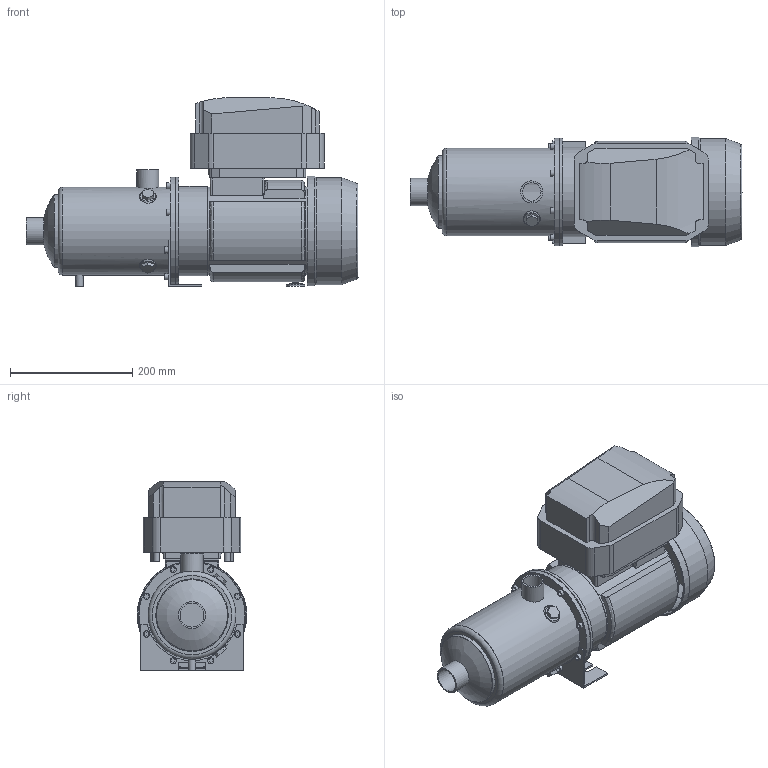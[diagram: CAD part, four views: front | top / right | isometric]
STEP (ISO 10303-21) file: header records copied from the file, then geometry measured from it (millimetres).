
FILE_DESCRIPTION(/* description */ ('Unknown'),/* implementation_level */ '2;1');
FILE_NAME(/* name */ 'MH 3 [7] T6 IE3 DTm',/* time_stamp */ '2026-07-10T15:06:16+02:00',/* author */ ('Unknown'),/* organization */ ('Unknown'),/* preprocessor_version */ 'ST-DEVELOPER v20',/* originating_system */ 'Solid Edge',/* authorisation */ 'Unknown');
FILE_SCHEMA (('AUTOMOTIVE_DESIGN {1 0 10303 214 3 1 1}'));
Length unit declared in the file: millimetre
Products named in the file (9): MH 3 [7] T6 IE3 DTm; Flangia motore Tonda M90; Corpo MH 3-5 [7]; Motore MEC 90 - T - VFD; carcassa MEC 90; Copriventola MEC 90; VFD sempl; Piedino MEC 90 int.90; Staffa 3-5-9 int.90
Assembly tree (8 placements, depth 3):
  MH 3 [7] T6 IE3 DTm
    Flangia motore Tonda M90
    Corpo MH 3-5 [7]
    Motore MEC 90 - T - VFD
      carcassa MEC 90
      Copriventola MEC 90
      VFD sempl
    Piedino MEC 90 int.90
    Staffa 3-5-9 int.90
Bounding box: 542.59 x 179.1 x 308 mm (x, y, z)
Volume: 6045484.6 mm3; surface area: 808412.7 mm2
Topology: 7 solids, 7 shells, 307 faces, 745 edges, 499 vertices
Faces by surface type: plane 198, cylinder 77, cone 19, torus 11, sphere 2
Full cylindrical faces by diameter (mm): 7 x4, 10 x9, 12 x1, 21 x1, 30 x1, 30.291 x1, 36 x1, 38.952 x1, 44.5 x1, 116.1 x1, 118.5 x1, 135 x1, 140 x3, 141.1 x1, 143.5 x1, 145 x1, 146 x1, 169.5 x1, 173.5 x1, 174.1 x2, 174.5 x1, 176.5 x2, 179.1 x1
Entity records: 9995 total; most frequent: CARTESIAN_POINT 1814, DIRECTION 1432, ORIENTED_EDGE 1332, EDGE_CURVE 666, AXIS2_PLACEMENT_3D 501, VERTEX_POINT 473, LINE 430, VECTOR 430
